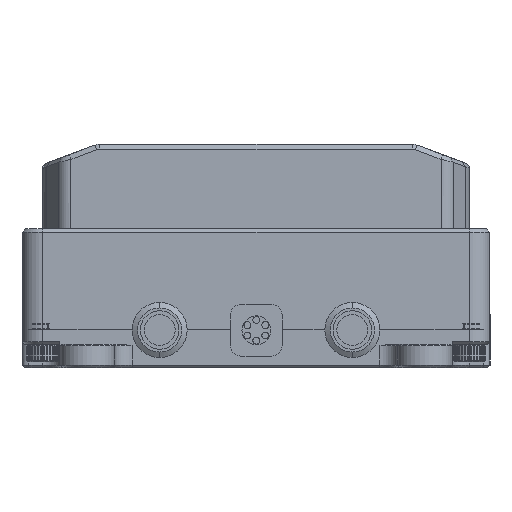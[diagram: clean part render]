
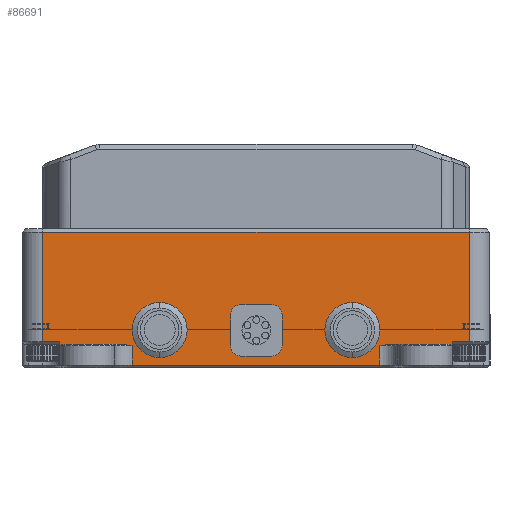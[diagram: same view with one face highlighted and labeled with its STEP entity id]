
A CAD part, left-side view. The second image highlights one B-rep face of the part: STEP entity #86691.
In plain terms, the highlighted planar face has unit normal (-1, 0, 0).
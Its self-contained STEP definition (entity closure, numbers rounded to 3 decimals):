
#2467=CARTESIAN_POINT('',(-66.5,-19.02,-11.6));
#2480=DIRECTION('',(0.,-1.,0.));
#2481=VECTOR('',#2480,9.28);
#2482=CARTESIAN_POINT('',(-66.5,-19.02,-11.6));
#2483=LINE('',#2482,#2481);
#2494=DIRECTION('',(0.,-1.,0.));
#2495=VECTOR('',#2494,9.28);
#2496=CARTESIAN_POINT('',(-66.5,28.3,-11.6));
#2497=LINE('',#2496,#2495);
#2854=DIRECTION('',(0.,-0.707,-0.707));
#2855=VECTOR('',#2854,0.283);
#2856=CARTESIAN_POINT('',(-66.5,-28.3,-11.6));
#2857=LINE('',#2856,#2855);
#2875=DIRECTION('',(0.,-1.,0.));
#2876=VECTOR('',#2875,2.5);
#2877=CARTESIAN_POINT('',(-66.5,-28.5,-11.2));
#2878=LINE('',#2877,#2876);
#2882=DIRECTION('',(0.,0.,-1.));
#2883=VECTOR('',#2882,0.6);
#2884=CARTESIAN_POINT('',(-66.5,-28.5,-11.2));
#2885=LINE('',#2884,#2883);
#2889=DIRECTION('',(0.,0.,-1.));
#2890=VECTOR('',#2889,2.8);
#2891=CARTESIAN_POINT('',(-66.5,-18.,-11.8));
#2892=LINE('',#2891,#2890);
#2896=DIRECTION('',(0.,1.,0.));
#2897=VECTOR('',#2896,36.);
#2898=CARTESIAN_POINT('',(-66.5,-18.,
-14.6));
#2899=LINE('',#2898,#2897);
#2903=DIRECTION('',(0.,0.,1.));
#2904=VECTOR('',#2903,2.8);
#2905=CARTESIAN_POINT('',(-66.5,18.,
-14.6));
#2906=LINE('',#2905,#2904);
#2910=DIRECTION('',(0.,0.,1.));
#2911=VECTOR('',#2910,0.6);
#2912=CARTESIAN_POINT('',(-66.5,28.5,-11.8));
#2913=LINE('',#2912,#2911);
#2917=DIRECTION('',(0.,1.,0.));
#2918=VECTOR('',#2917,2.5);
#2919=CARTESIAN_POINT('',(-66.5,28.5,-11.2));
#2920=LINE('',#2919,#2918);
#2924=DIRECTION('',(0.,-1.,0.));
#2925=VECTOR('',#2924,62.);
#2926=CARTESIAN_POINT('',(-66.5,31.,4.7));
#2927=LINE('',#2926,#2925);
#2931=CARTESIAN_POINT('',(-66.5,14.,-9.5));
#2932=DIRECTION('',(1.,0.,0.));
#2933=DIRECTION('',(0.,0.,-1.));
#2934=AXIS2_PLACEMENT_3D('',#2931,#2932,#2933);
#2939=CARTESIAN_POINT('',(-66.5,14.,-9.5));
#2940=DIRECTION('',(1.,0.,0.));
#2941=DIRECTION('',(0.,0.,1.));
#2942=AXIS2_PLACEMENT_3D('',#2939,#2940,#2941);
#2947=CARTESIAN_POINT('',(-66.5,-14.,-9.5));
#2948=DIRECTION('',(1.,0.,0.));
#2949=DIRECTION('',(0.,0.,-1.));
#2950=AXIS2_PLACEMENT_3D('',#2947,#2948,#2949);
#2955=CARTESIAN_POINT('',(-66.5,-14.,-9.5));
#2956=DIRECTION('',(1.,0.,0.));
#2957=DIRECTION('',(0.,0.,1.));
#2958=AXIS2_PLACEMENT_3D('',#2955,#2956,#2957);
#2963=DIRECTION('',(0.,-1.,0.));
#2964=VECTOR('',#2963,6.1);
#2965=CARTESIAN_POINT('',(-66.5,3.,-12.5));
#2966=LINE('',#2965,#2964);
#2970=DIRECTION('',(0.,0.,1.));
#2971=VECTOR('',#2970,6.);
#2972=CARTESIAN_POINT('',(-66.5,-3.1,-12.5));
#2973=LINE('',#2972,#2971);
#2977=DIRECTION('',(0.,1.,0.));
#2978=VECTOR('',#2977,6.1);
#2979=CARTESIAN_POINT('',(-66.5,-3.1,-6.5));
#2980=LINE('',#2979,#2978);
#2984=DIRECTION('',(0.,0.,-1.));
#2985=VECTOR('',#2984,3.);
#2986=CARTESIAN_POINT('',(-66.5,3.,-6.5));
#2987=LINE('',#2986,#2985);
#2991=DIRECTION('',(0.,0.,-1.));
#2992=VECTOR('',#2991,3.);
#2993=CARTESIAN_POINT('',(-66.5,3.05,-9.5));
#2994=LINE('',#2993,#2992);
#2998=DIRECTION('',(0.,-1.,0.));
#2999=VECTOR('',#2998,0.05);
#3000=CARTESIAN_POINT('',(-66.5,3.05,-12.5));
#3001=LINE('',#3000,#2999);
#3020=DIRECTION('',(0.,0.,1.));
#3021=VECTOR('',#3020,15.9);
#3022=CARTESIAN_POINT('',(-66.5,-31.,
-11.2));
#3023=LINE('',#3022,#3021);
#3269=DIRECTION('',(0.,0.,-1.));
#3270=VECTOR('',#3269,15.9);
#3271=CARTESIAN_POINT('',(-66.5,31.,4.7));
#3272=LINE('',#3271,#3270);
#3926=DIRECTION('',(0.,-0.707,0.707));
#3927=VECTOR('',#3926,0.283);
#3928=CARTESIAN_POINT('',(-66.5,28.5,-11.8));
#3929=LINE('',#3928,#3927);
#3994=CARTESIAN_POINT('',(-66.5,19.02,-11.6));
#3995=CARTESIAN_POINT('',(-66.5,18.839,-11.668));
#3996=CARTESIAN_POINT('',(-66.5,18.488,-11.769));
#3997=CARTESIAN_POINT('',(-66.5,18.159,-11.8));
#3998=CARTESIAN_POINT('',(-66.5,18.,-11.8));
#4042=CARTESIAN_POINT('',(-66.5,-18.,-11.8));
#4043=CARTESIAN_POINT('',(-66.5,-18.16,-11.8));
#4044=CARTESIAN_POINT('',(-66.5,-18.489,-11.769));
#4045=CARTESIAN_POINT('',(-66.5,-18.84,-11.668));
#4046=CARTESIAN_POINT('',(-66.5,-19.02,-11.6));
#32356=DIRECTION('',(0.,-1.,0.));
#32357=VECTOR('',#32356,0.05);
#32358=CARTESIAN_POINT('',(-66.5,3.05,-9.5));
#32359=LINE('',#32358,#32357);
#74564=CARTESIAN_POINT('',(-66.5,31.,4.7));
#74566=VERTEX_POINT('',#74564);
#74569=CARTESIAN_POINT('',(-66.5,-31.,
4.7));
#74570=VERTEX_POINT('',#74569);
#77793=CARTESIAN_POINT('',(-66.5,-18.,
-14.6));
#77794=CARTESIAN_POINT('',(-66.5,18.,
-14.6));
#77795=VERTEX_POINT('',#77793);
#77796=VERTEX_POINT('',#77794);
#78063=CARTESIAN_POINT('',(-66.5,31.,-11.2));
#78064=VERTEX_POINT('',#78063);
#78065=CARTESIAN_POINT('',(-66.5,28.5,-11.2));
#78066=VERTEX_POINT('',#78065);
#78161=CARTESIAN_POINT('',(-66.5,-31.,-11.2));
#78162=VERTEX_POINT('',#78161);
#78165=CARTESIAN_POINT('',(-66.5,-28.5,-11.2));
#78166=VERTEX_POINT('',#78165);
#78690=CARTESIAN_POINT('',(-66.5,-28.5,-11.8));
#78692=VERTEX_POINT('',#78690);
#78694=CARTESIAN_POINT('',(-66.5,-28.3,-11.6));
#78696=VERTEX_POINT('',#78694);
#78705=VERTEX_POINT('',#2467);
#78706=CARTESIAN_POINT('',(-66.5,-18.,-11.8));
#78707=VERTEX_POINT('',#78706);
#78709=CARTESIAN_POINT('',(-66.5,28.3,-11.6));
#78711=VERTEX_POINT('',#78709);
#78713=CARTESIAN_POINT('',(-66.5,28.5,-11.8));
#78715=VERTEX_POINT('',#78713);
#78724=CARTESIAN_POINT('',(-66.5,18.,-11.8));
#78725=VERTEX_POINT('',#78724);
#78726=CARTESIAN_POINT('',(-66.5,19.02,-11.6));
#78727=VERTEX_POINT('',#78726);
#78767=CARTESIAN_POINT('',(-66.5,3.05,-9.5));
#78769=VERTEX_POINT('',#78767);
#78839=CARTESIAN_POINT('',(-66.5,3.05,-12.5));
#78840=VERTEX_POINT('',#78839);
#84645=CARTESIAN_POINT('',(-66.5,14.,-13.));
#84646=CARTESIAN_POINT('',(-66.5,14.,-6.));
#84647=VERTEX_POINT('',#84645);
#84648=VERTEX_POINT('',#84646);
#84762=CARTESIAN_POINT('',(-66.5,-14.,-13.));
#84763=CARTESIAN_POINT('',(-66.5,-14.,-6.));
#84764=VERTEX_POINT('',#84762);
#84765=VERTEX_POINT('',#84763);
#85078=CARTESIAN_POINT('',(-66.5,3.,-9.5));
#85080=VERTEX_POINT('',#85078);
#85082=CARTESIAN_POINT('',(-66.5,3.,-12.5));
#85083=CARTESIAN_POINT('',(-66.5,-3.1,-12.5));
#85084=VERTEX_POINT('',#85082);
#85085=VERTEX_POINT('',#85083);
#85086=CARTESIAN_POINT('',(-66.5,-3.1,-6.5));
#85087=VERTEX_POINT('',#85086);
#85088=CARTESIAN_POINT('',(-66.5,3.,-6.5));
#85089=VERTEX_POINT('',#85088);
#86628=CARTESIAN_POINT('',(-66.5,34.,-9.5));
#86629=DIRECTION('',(-1.,0.,0.));
#86630=DIRECTION('',(0.,-1.,0.));
#86631=AXIS2_PLACEMENT_3D('',#86628,#86629,#86630);
#86632=PLANE('',#86631);
#86634=ORIENTED_EDGE('',*,*,#86633,.F.);
#86636=ORIENTED_EDGE('',*,*,#86635,.F.);
#86637=ORIENTED_EDGE('',*,*,#86613,.T.);
#86638=ORIENTED_EDGE('',*,*,#86602,.F.);
#86639=ORIENTED_EDGE('',*,*,#86239,.F.);
#86641=ORIENTED_EDGE('',*,*,#86640,.F.);
#86643=ORIENTED_EDGE('',*,*,#86642,.T.);
#86645=ORIENTED_EDGE('',*,*,#86644,.T.);
#86647=ORIENTED_EDGE('',*,*,#86646,.T.);
#86649=ORIENTED_EDGE('',*,*,#86648,.F.);
#86650=ORIENTED_EDGE('',*,*,#86256,.F.);
#86652=ORIENTED_EDGE('',*,*,#86651,.F.);
#86654=ORIENTED_EDGE('',*,*,#86653,.T.);
#86656=ORIENTED_EDGE('',*,*,#86655,.T.);
#86658=ORIENTED_EDGE('',*,*,#86657,.F.);
#86660=ORIENTED_EDGE('',*,*,#86659,.T.);
#86661=EDGE_LOOP('',(#86634,#86636,#86637,#86638,#86639,#86641,#86643,#86645,
#86647,#86649,#86650,#86652,#86654,#86656,#86658,#86660));
#86662=FACE_OUTER_BOUND('',#86661,.F.);
#86664=ORIENTED_EDGE('',*,*,#86663,.F.);
#86666=ORIENTED_EDGE('',*,*,#86665,.F.);
#86667=EDGE_LOOP('',(#86664,#86666));
#86668=FACE_BOUND('',#86667,.F.);
#86670=ORIENTED_EDGE('',*,*,#86669,.F.);
#86672=ORIENTED_EDGE('',*,*,#86671,.F.);
#86673=EDGE_LOOP('',(#86670,#86672));
#86674=FACE_BOUND('',#86673,.F.);
#86676=ORIENTED_EDGE('',*,*,#86675,.T.);
#86678=ORIENTED_EDGE('',*,*,#86677,.T.);
#86680=ORIENTED_EDGE('',*,*,#86679,.T.);
#86682=ORIENTED_EDGE('',*,*,#86681,.T.);
#86684=ORIENTED_EDGE('',*,*,#86683,.F.);
#86686=ORIENTED_EDGE('',*,*,#86685,.T.);
#86688=ORIENTED_EDGE('',*,*,#86687,.T.);
#86689=EDGE_LOOP('',(#86676,#86678,#86680,#86682,#86684,#86686,#86688));
#86690=FACE_BOUND('',#86689,.F.);
#2935=CIRCLE('',#2934,3.5);
#2943=CIRCLE('',#2942,3.5);
#2951=CIRCLE('',#2950,3.5);
#2959=CIRCLE('',#2958,3.5);
#3999=B_SPLINE_CURVE_WITH_KNOTS('',3,(#3994,#3995,#3996,#3997,#3998),
.UNSPECIFIED.,.F.,.F.,(4,1,4),(0.,0.5,1.),.UNSPECIFIED.);
#4047=B_SPLINE_CURVE_WITH_KNOTS('',3,(#4042,#4043,#4044,#4045,#4046),
.UNSPECIFIED.,.F.,.F.,(4,1,4),(0.,0.5,1.),.UNSPECIFIED.);
#86239=EDGE_CURVE('',#78705,#78696,#2483,.T.);
#86256=EDGE_CURVE('',#78711,#78727,#2497,.T.);
#86602=EDGE_CURVE('',#78696,#78692,#2857,.T.);
#86613=EDGE_CURVE('',#78166,#78692,#2885,.T.);
#86633=EDGE_CURVE('',#78162,#74570,#3023,.T.);
#86635=EDGE_CURVE('',#78166,#78162,#2878,.T.);
#86640=EDGE_CURVE('',#78707,#78705,#4047,.T.);
#86642=EDGE_CURVE('',#78707,#77795,#2892,.T.);
#86644=EDGE_CURVE('',#77795,#77796,#2899,.T.);
#86646=EDGE_CURVE('',#77796,#78725,#2906,.T.);
#86648=EDGE_CURVE('',#78727,#78725,#3999,.T.);
#86651=EDGE_CURVE('',#78715,#78711,#3929,.T.);
#86653=EDGE_CURVE('',#78715,#78066,#2913,.T.);
#86655=EDGE_CURVE('',#78066,#78064,#2920,.T.);
#86657=EDGE_CURVE('',#74566,#78064,#3272,.T.);
#86659=EDGE_CURVE('',#74566,#74570,#2927,.T.);
#86663=EDGE_CURVE('',#84647,#84648,#2935,.T.);
#86665=EDGE_CURVE('',#84648,#84647,#2943,.T.);
#86669=EDGE_CURVE('',#84764,#84765,#2951,.T.);
#86671=EDGE_CURVE('',#84765,#84764,#2959,.T.);
#86675=EDGE_CURVE('',#85084,#85085,#2966,.T.);
#86677=EDGE_CURVE('',#85085,#85087,#2973,.T.);
#86679=EDGE_CURVE('',#85087,#85089,#2980,.T.);
#86681=EDGE_CURVE('',#85089,#85080,#2987,.T.);
#86683=EDGE_CURVE('',#78769,#85080,#32359,.T.);
#86685=EDGE_CURVE('',#78769,#78840,#2994,.T.);
#86687=EDGE_CURVE('',#78840,#85084,#3001,.T.);
#86691=ADVANCED_FACE('',(#86662,#86668,#86674,#86690),#86632,.T.);
